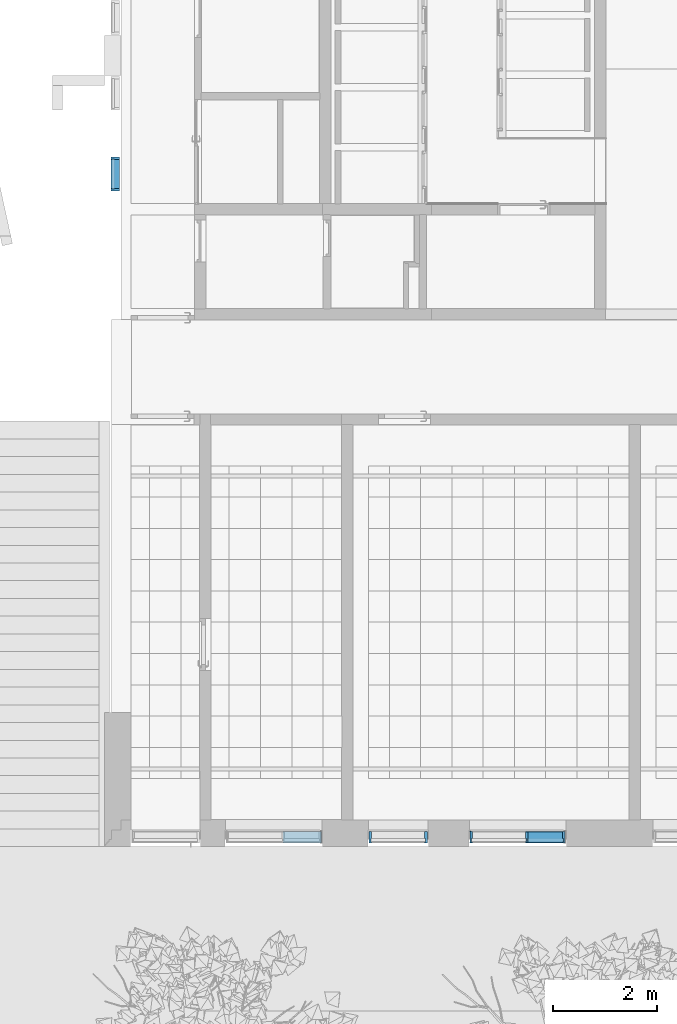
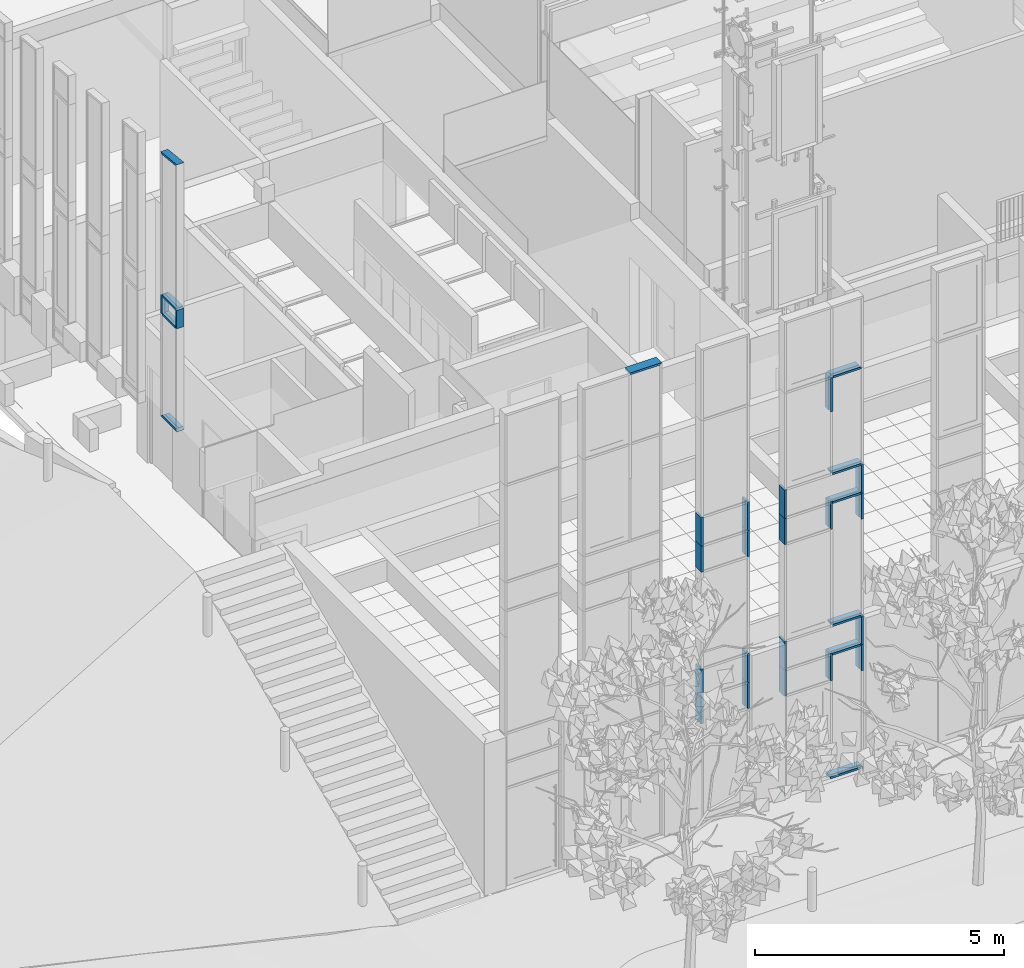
# One storey, part 30 of 246: 33 members, 4 elements without a shape of their own.
"""IFC2X3 building model written with IfcOpenShell, lengths in millimetres."""

from ifc_helpers import new_model, entity, si_unit, converted_unit, derived_unit, money_unit, direction, frame, origin_with_axes, place, context, subcontext, project, spatial, faceted_brep, source, transform, mapped, material, type_object, element, aggregate, save


model = new_model("IFC2X3")

# Units and contexts
model_context = context("Model", 3, precision=0.01, world=origin_with_axes(), true_north=direction((0.0, 1.0)))
body_context = subcontext(model_context, "Body", "Model", "MODEL_VIEW")
ifc_project = project(units=[si_unit("LENGTHUNIT", "METRE", prefix="MILLI"), si_unit("AREAUNIT", "SQUARE_METRE"), si_unit("VOLUMEUNIT", "CUBIC_METRE"), converted_unit("PLANEANGLEUNIT", "DEGREE", entity("IfcPlaneAngleMeasure", 0.0174532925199), si_unit("PLANEANGLEUNIT", "RADIAN"), dimensions=[0, 0, 0, 0, 0, 0, 0]), si_unit("SOLIDANGLEUNIT", "STERADIAN"), money_unit("EUR"), converted_unit("TIMEUNIT", "Year", entity("IfcTimeMeasure", 31556926.0), si_unit("TIMEUNIT", "SECOND"), dimensions=[0, 0, 1, 0, 0, 0, 0]), si_unit("MASSUNIT", "GRAM", prefix="KILO"), si_unit("THERMODYNAMICTEMPERATUREUNIT", "DEGREE_CELSIUS"), si_unit("LUMINOUSINTENSITYUNIT", "LUMEN"), si_unit("ENERGYUNIT", "JOULE", prefix="MEGA"), derived_unit("THERMALCONDUCTANCEUNIT", [(si_unit("POWERUNIT", "WATT"), 1), (si_unit("LENGTHUNIT", "METRE"), -1), (si_unit("THERMODYNAMICTEMPERATUREUNIT", "KELVIN"), -1)]), derived_unit("SPECIFICHEATCAPACITYUNIT", [(si_unit("ENERGYUNIT", "JOULE"), 1), (si_unit("MASSUNIT", "GRAM", prefix="KILO"), -1), (si_unit("THERMODYNAMICTEMPERATUREUNIT", "KELVIN"), -1)]), derived_unit("MASSDENSITYUNIT", [(si_unit("MASSUNIT", "GRAM", prefix="KILO"), 1), (si_unit("VOLUMEUNIT", "CUBIC_METRE"), -1)])], contexts=[model_context])

# Site, building, storey
site_placement = place(None, origin_with_axes())
site = spatial("IfcSite", under=ifc_project, at=site_placement, Name="L.Koidula tn 11b", CompositionType="ELEMENT")
building_placement = place(site_placement, origin_with_axes())
building = spatial("IfcBuilding", under=site, at=building_placement, Name="Rakvere Riigigümnaasium", CompositionType="ELEMENT")
storey_placement = place(building_placement, origin_with_axes())
storey = spatial("IfcBuildingStorey", under=building, at=storey_placement, Name="1.korrus 0,00", CompositionType="ELEMENT", Elevation=0.0)

# Curtain wall, members
curtain_wall_type = type_object("IfcCurtainWallType", Name="Curtain Wall Type", PredefinedType="NOTDEFINED")
curtain_wall_1_placement = place(storey_placement, frame((40619.71659, 5111.45334637, -1.61944636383e-05), z_axis=(0.0, 0.0, 1.0), x_axis=(1.0, 0.0, 0.0)))
curtain_wall_1 = element("IfcCurtainWall", 1, at=curtain_wall_1_placement, inside=storey, type_object=curtain_wall_type, Name="KLF-05-1D")
ifc_material = material(Name="Alumiiniumprofiil (RAL 7021)")
member_type_1 = type_object("IfcMemberType", Name="Boundary Frame 50 x 222", PredefinedType="MULLION")
shared_shape_1 = source(origin_with_axes(), body_context, "Body", "Brep", [
    faceted_brep([(37.0, -32.5, 705.000000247), (37.0, 32.5, 705.000000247), (50.0, 32.5, 705.000000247), (50.0, 53.0, 705.000000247), (0.0, 53.0, 705.000000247), (0.0, -169.0, 705.000000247), (50.0, -169.0, 705.000000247), (50.0, -32.5, 705.000000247), (37.0, -32.5, 0.0), (37.0, 32.5, 0.0), (50.0, 32.5, 0.0), (50.0, 53.0, 0.0), (0.0, 53.0, 0.0), (0.0, -169.0, 0.0), (50.0, -169.0, 0.0), (50.0, -32.5, 0.0)], [[[0, 1, 2, 3, 4, 5, 6, 7]], [[1, 0, 8, 9]], [[10, 2, 1, 9]], [[2, 10, 11, 3]], [[12, 4, 3, 11]], [[13, 5, 4, 12]], [[14, 6, 5, 13]], [[15, 7, 6, 14]], [[0, 7, 15, 8]], [[8, 15, 14, 13, 12, 11, 10, 9]]]),
])
member_1_placement = place(curtain_wall_1_placement, frame((-560.000157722, 0.0, 3745.0), z_axis=(0.0, 0.0, -1.0), x_axis=(1.0, 0.0, 0.0)))
member_1 = element("IfcMember", 2, at=member_1_placement, type_object=member_type_1, material=ifc_material, Name="KLF-05-2C-Profiilid", ObjectType="MULLION", context=body_context, shape_type="MappedRepresentation", body=[
    mapped(shared_shape_1, transform((0.0, 0.0, 0.0))),
])
member_2_placement = place(curtain_wall_1_placement, frame((-560.000157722, 0.0, 7465.0), z_axis=(0.0, 0.0, -1.0), x_axis=(1.0, 0.0, 0.0)))
member_2 = element("IfcMember", 3, at=member_2_placement, type_object=member_type_1, material=ifc_material, Name="KLF-05-9C-Profiilid", ObjectType="MULLION", context=body_context, shape_type="MappedRepresentation", body=[
    mapped(shared_shape_1, transform((0.0, 0.0, 0.0))),
])
member_3_placement = place(curtain_wall_1_placement, frame((560.000157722, 0.0, 6760.0), z_axis=(0.0, 0.0, 1.0), x_axis=(-1.0, 0.0, 0.0)))
member_3 = element("IfcMember", 4, at=member_3_placement, type_object=member_type_1, material=ifc_material, Name="KLF-05-3C-Profiilid", ObjectType="MULLION", context=body_context, shape_type="MappedRepresentation", body=[
    mapped(shared_shape_1, transform((0.0, 0.0, 0.0))),
])
member_4_placement = place(curtain_wall_1_placement, frame((560.000157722, 0.0, 3040.0), z_axis=(0.0, 0.0, 1.0), x_axis=(-1.0, 0.0, 0.0)))
member_4 = element("IfcMember", 5, at=member_4_placement, type_object=member_type_1, material=ifc_material, Name="KLF-05-0C-Profiilid", ObjectType="MULLION", context=body_context, shape_type="MappedRepresentation", body=[
    mapped(shared_shape_1, transform((0.0, 0.0, 0.0))),
])

curtain_wall_2_placement = place(storey_placement, frame((42948.5002114, 5111.45334637, -8.09717250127e-06), z_axis=(0.0, 0.0, 1.0), x_axis=(1.0, 0.0, 0.0)))
curtain_wall_2 = element("IfcCurtainWall", 6, at=curtain_wall_2_placement, inside=storey, type_object=curtain_wall_type, Name="KLF-05-2A")
member_5_placement = place(curtain_wall_2_placement, frame((876.000206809, 0.0, 6760.0), z_axis=(0.0, 0.0, 1.0), x_axis=(-1.0, 0.0, 0.0)))
member_5 = element("IfcMember", 7, at=member_5_placement, type_object=member_type_1, material=ifc_material, Name="KLF-05-7A-Profiilid", ObjectType="MULLION", context=body_context, shape_type="MappedRepresentation", body=[
    mapped(shared_shape_1, transform((0.0, 0.0, 0.0))),
])
member_6_placement = place(curtain_wall_2_placement, frame((876.000206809, 0.0, 3040.0), z_axis=(0.0, 0.0, 1.0), x_axis=(-1.0, 0.0, 0.0)))
member_6 = element("IfcMember", 8, at=member_6_placement, type_object=member_type_1, material=ifc_material, Name="KLF-05-4A-Profiilid", ObjectType="MULLION", context=body_context, shape_type="MappedRepresentation", body=[
    mapped(shared_shape_1, transform((0.0, 0.0, 0.0))),
])

# Member
shared_shape_2 = source(origin_with_axes(), body_context, "Body", "Brep", [
    faceted_brep([(37.0, -32.5, 640.0), (37.0, 32.5, 640.0), (50.0, 32.5, 640.0), (50.0, 53.0, 640.0), (0.0, 53.0, 640.0), (0.0, -169.0, 640.0), (50.0, -169.0, 640.0), (50.0, -32.5, 640.0), (37.0, -32.5, 0.0), (37.0, 32.5, 0.0), (50.0, 32.5, 0.0), (50.0, 53.0, 0.0), (0.0, 53.0, 0.0), (0.0, -169.0, 0.0), (50.0, -169.0, 0.0), (50.0, -32.5, 0.0)], [[[0, 1, 2, 3, 4, 5, 6, 7]], [[1, 0, 8, 9]], [[10, 2, 1, 9]], [[2, 10, 11, 3]], [[12, 4, 3, 11]], [[13, 5, 4, 12]], [[14, 6, 5, 13]], [[15, 7, 6, 14]], [[0, 7, 15, 8]], [[8, 15, 14, 13, 12, 11, 10, 9]]]),
])
member_7_placement = place(curtain_wall_1_placement, frame((-560.000157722, 0.0, 3040.0), z_axis=(0.0, 0.0, -1.0), x_axis=(1.0, 0.0, 0.0)))
member_7 = element("IfcMember", 9, at=member_7_placement, type_object=member_type_1, material=ifc_material, Name="KLF-05-3C-Profiilid", ObjectType="MULLION", context=body_context, shape_type="MappedRepresentation", body=[
    mapped(shared_shape_2, transform((0.0, 0.0, 0.0))),
])

member_8_placement = place(curtain_wall_1_placement, frame((-560.000157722, 0.0, 6760.0), z_axis=(0.0, 0.0, -1.0), x_axis=(1.0, 0.0, 0.0)))
member_8 = element("IfcMember", 10, at=member_8_placement, type_object=member_type_1, material=ifc_material, Name="KLF-05-0C-Profiilid", ObjectType="MULLION", context=body_context, shape_type="MappedRepresentation", body=[
    mapped(shared_shape_2, transform((0.0, 0.0, 0.0))),
])

member_9_placement = place(curtain_wall_1_placement, frame((560.000157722, 0.0, 6120.0), z_axis=(0.0, 0.0, 1.0), x_axis=(-1.0, 0.0, 0.0)))
member_9 = element("IfcMember", 11, at=member_9_placement, type_object=member_type_1, material=ifc_material, Name="KLF-05-2C-Profiilid", ObjectType="MULLION", context=body_context, shape_type="MappedRepresentation", body=[
    mapped(shared_shape_2, transform((0.0, 0.0, 0.0))),
])

member_10_placement = place(curtain_wall_1_placement, frame((560.000157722, 0.0, 2400.0), z_axis=(0.0, 0.0, 1.0), x_axis=(-1.0, 0.0, 0.0)))
member_10 = element("IfcMember", 12, at=member_10_placement, type_object=member_type_1, material=ifc_material, Name="KLF-05-9C-Profiilid", ObjectType="MULLION", context=body_context, shape_type="MappedRepresentation", body=[
    mapped(shared_shape_2, transform((0.0, 0.0, 0.0))),
])

aggregate(curtain_wall_1, [member_7, member_1, member_8, member_2, member_3, member_9, member_4, member_10])

member_11_placement = place(curtain_wall_2_placement, frame((876.000206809, 0.0, 6120.0), z_axis=(0.0, 0.0, 1.0), x_axis=(-1.0, 0.0, 0.0)))
member_11 = element("IfcMember", 13, at=member_11_placement, type_object=member_type_1, material=ifc_material, Name="KLF-05-6A-Profiilid", ObjectType="MULLION", context=body_context, shape_type="MappedRepresentation", body=[
    mapped(shared_shape_2, transform((0.0, 0.0, 0.0))),
])

member_12_placement = place(curtain_wall_2_placement, frame((876.000206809, 0.0, 2400.0), z_axis=(0.0, 0.0, 1.0), x_axis=(-1.0, 0.0, 0.0)))
member_12 = element("IfcMember", 14, at=member_12_placement, type_object=member_type_1, material=ifc_material, Name="KLF-05-3A-Profiilid", ObjectType="MULLION", context=body_context, shape_type="MappedRepresentation", body=[
    mapped(shared_shape_2, transform((0.0, 0.0, 0.0))),
])

shared_shape_3 = source(origin_with_axes(), body_context, "Body", "Brep", [
    faceted_brep([(-37.0, -32.5, 705.0), (-50.0, -32.5, 705.0), (-50.0, -169.0, 705.0), (0.0, -169.0, 705.0), (0.0, 53.0, 705.0), (-50.0, 53.0, 705.0), (-50.0, 32.5, 705.0), (-37.0, 32.5, 705.0), (-37.0, -32.5, 0.0), (-50.0, -32.5, 0.0), (-50.0, -169.0, 0.0), (0.0, -169.0, 0.0), (0.0, 53.0, 0.0), (-50.0, 53.0, 0.0), (-50.0, 32.5, 0.0), (-37.0, 32.5, 0.0)], [[[0, 1, 2, 3, 4, 5, 6, 7]], [[0, 8, 9, 1]], [[9, 10, 2, 1]], [[10, 11, 3, 2]], [[11, 12, 4, 3]], [[12, 13, 5, 4]], [[6, 5, 13, 14]], [[14, 15, 7, 6]], [[7, 15, 8, 0]], [[8, 15, 14, 13, 12, 11, 10, 9]]]),
])
member_13_placement = place(curtain_wall_2_placement, frame((-954.000087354, 0.0, 3040.0), z_axis=(0.0, 0.0, 1.0), x_axis=(-1.0, 0.0, 0.0)))
member_13 = element("IfcMember", 15, at=member_13_placement, type_object=member_type_1, material=ifc_material, Name="KLF-05-7A-Profiilid", ObjectType="MULLION", context=body_context, shape_type="MappedRepresentation", body=[
    mapped(shared_shape_3, transform((0.0, 0.0, 0.0))),
])

member_14_placement = place(curtain_wall_2_placement, frame((-954.000087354, 0.0, 6760.0), z_axis=(0.0, 0.0, 1.0), x_axis=(-1.0, 0.0, 0.0)))
member_14 = element("IfcMember", 16, at=member_14_placement, type_object=member_type_1, material=ifc_material, Name="KLF-05-4A-Profiilid", ObjectType="MULLION", context=body_context, shape_type="MappedRepresentation", body=[
    mapped(shared_shape_3, transform((0.0, 0.0, 0.0))),
])

shared_shape_4 = source(origin_with_axes(), body_context, "Body", "Brep", [
    faceted_brep([(-37.0, -32.5, 640.0), (-50.0, -32.5, 640.0), (-50.0, -169.0, 640.0), (0.0, -169.0, 640.0), (0.0, 53.0, 640.0), (-50.0, 53.0, 640.0), (-50.0, 32.5, 640.0), (-37.0, 32.5, 640.0), (-37.0, -32.5, 0.0), (-50.0, -32.5, 0.0), (-50.0, -169.0, 0.0), (0.0, -169.0, 0.0), (0.0, 53.0, 0.0), (-50.0, 53.0, 0.0), (-50.0, 32.5, 0.0), (-37.0, 32.5, 0.0)], [[[0, 1, 2, 3, 4, 5, 6, 7]], [[0, 8, 9, 1]], [[9, 10, 2, 1]], [[10, 11, 3, 2]], [[11, 12, 4, 3]], [[12, 13, 5, 4]], [[6, 5, 13, 14]], [[14, 15, 7, 6]], [[7, 15, 8, 0]], [[8, 15, 14, 13, 12, 11, 10, 9]]]),
])
member_15_placement = place(curtain_wall_2_placement, frame((-954.000087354, 0.0, 2400.0), z_axis=(0.0, 0.0, 1.0), x_axis=(-1.0, 0.0, 0.0)))
member_15 = element("IfcMember", 17, at=member_15_placement, type_object=member_type_1, material=ifc_material, Name="KLF-05-8A-Profiilid", ObjectType="MULLION", context=body_context, shape_type="MappedRepresentation", body=[
    mapped(shared_shape_4, transform((0.0, 0.0, 0.0))),
])

member_16_placement = place(curtain_wall_2_placement, frame((-954.000087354, 0.0, 6120.0), z_axis=(0.0, 0.0, 1.0), x_axis=(-1.0, 0.0, 0.0)))
member_16 = element("IfcMember", 18, at=member_16_placement, type_object=member_type_1, material=ifc_material, Name="KLF-05-5A-Profiilid", ObjectType="MULLION", context=body_context, shape_type="MappedRepresentation", body=[
    mapped(shared_shape_4, transform((0.0, 0.0, 0.0))),
])

# Curtain wall, members
curtain_wall_3_placement = place(storey_placement, frame((35156.0871538, 17885.4554584, 3720.0), z_axis=(0.0, 0.0, 1.0), x_axis=(1.0, 0.0, 0.0)))
curtain_wall_3 = element("IfcCurtainWall", 19, at=curtain_wall_3_placement, inside=storey, type_object=curtain_wall_type, Name="KLF-04-10")
member_type_2 = type_object("IfcMemberType", Name="Transom Frame 50 x 170", PredefinedType="MULLION")
shared_shape_5 = source(origin_with_axes(), body_context, "Body", "Brep", [
    faceted_brep([(-12.0, -26.0, 599.999891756), (-25.0, -26.0, 599.999891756), (-25.0, -124.0, 599.999887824), (25.0, -124.0, 599.999887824), (25.0, -26.0, 599.999891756), (12.0, -26.0, 599.999891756), (12.0, 26.0, 599.999893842), (25.0, 26.0, 599.999893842), (25.0, 46.0, 599.999894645), (-25.0, 46.0, 599.999894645), (-25.0, 26.0, 599.999893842), (-12.0, 26.0, 599.999893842), (-12.0, -26.0, 50.0000002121), (-25.0, -26.0, 50.0000002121), (-25.0, -124.0, 50.0000010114), (25.0, -124.0, 50.0000010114), (25.0, -26.0, 50.0000002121), (12.0, -26.0, 50.0000002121), (12.0, 26.0, 49.9999997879), (25.0, 26.0, 49.9999997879), (25.0, 46.0, 49.9999996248), (-25.0, 46.0, 49.9999996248), (-25.0, 26.0, 49.9999997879), (-12.0, 26.0, 49.9999997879)], [[[0, 1, 2, 3, 4, 5, 6, 7, 8, 9, 10, 11]], [[1, 0, 12, 13]], [[1, 13, 14, 2]], [[2, 14, 15, 3]], [[4, 3, 15, 16]], [[4, 16, 17, 5]], [[5, 17, 18, 6]], [[7, 6, 18, 19]], [[19, 20, 8, 7]], [[8, 20, 21, 9]], [[22, 10, 9, 21]], [[11, 10, 22, 23]], [[0, 11, 23, 12]], [[23, 22, 21, 20, 19, 18, 17, 16, 15, 14, 13, 12]]]),
])
member_17_placement = place(curtain_wall_3_placement, frame((0.0, 324.999939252, 2980.00007113), z_axis=(0.0, -1.0, 0.0), x_axis=(0.0, 0.0, 1.0)))
member_17 = element("IfcMember", 20, at=member_17_placement, type_object=member_type_2, material=ifc_material, Name="KLF-04-10-Profiilid", ObjectType="MULLION", context=body_context, shape_type="MappedRepresentation", body=[
    mapped(shared_shape_5, transform((0.0, 0.0, 0.0))),
])
member_18_placement = place(curtain_wall_3_placement, frame((0.0, 324.999939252, 2525.00007113), z_axis=(0.0, -1.0, 0.0), x_axis=(0.0, 0.0, 1.0)))
member_18 = element("IfcMember", 21, at=member_18_placement, type_object=member_type_2, material=ifc_material, Name="KLF-04-10-Profiilid", ObjectType="MULLION", context=body_context, shape_type="MappedRepresentation", body=[
    mapped(shared_shape_5, transform((0.0, 0.0, 0.0))),
])

# Member
member_type_3 = type_object("IfcMemberType", Name="50 x 208", PredefinedType="MULLION")
shared_shape_6 = source(origin_with_axes(), body_context, "Body", "Brep", [
    faceted_brep([(-12.0, -27.0, 730.000256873), (-25.0, -27.0, 730.000256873), (-25.0, -160.0, 730.000256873), (25.0, -160.0, 730.000256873), (25.0, -27.0, 730.000256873), (12.0, -27.0, 730.000256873), (12.0, 27.0, 730.000256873), (25.0, 27.0, 730.000256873), (25.0, 48.0, 730.000256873), (-25.0, 48.0, 730.000256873), (-25.0, 27.0, 730.000256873), (-12.0, 27.0, 730.000256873), (-12.0, -27.0, 25.0), (-25.0, -27.0, 25.0), (-25.0, -160.0, 25.0), (25.0, -160.0, 25.0), (25.0, -27.0, 25.0), (12.0, -27.0, 25.0), (12.0, 27.0, 25.0), (25.0, 27.0, 25.0), (25.0, 48.0, 25.0), (-25.0, 48.0, 25.0), (-25.0, 27.0, 25.0), (-12.0, 27.0, 25.0)], [[[0, 1, 2, 3, 4, 5, 6, 7, 8, 9, 10, 11]], [[1, 0, 12, 13]], [[1, 13, 14, 2]], [[2, 14, 15, 3]], [[4, 3, 15, 16]], [[4, 16, 17, 5]], [[5, 17, 18, 6]], [[7, 6, 18, 19]], [[19, 20, 8, 7]], [[8, 20, 21, 9]], [[22, 10, 9, 21]], [[11, 10, 22, 23]], [[0, 11, 23, 12]], [[23, 22, 21, 20, 19, 18, 17, 16, 15, 14, 13, 12]]]),
])
member_19_placement = place(curtain_wall_2_placement, frame((140.999912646, 0.0, 6760.0), z_axis=(1.0, 0.0, 0.0), x_axis=(0.0, 0.0, 1.0)))
member_19 = element("IfcMember", 22, at=member_19_placement, type_object=member_type_3, material=ifc_material, Name="KLF-33", ObjectType="MULLION", context=body_context, shape_type="MappedRepresentation", body=[
    mapped(shared_shape_6, transform((0.0, 0.0, 0.0))),
])

member_20_placement = place(curtain_wall_2_placement, frame((140.999912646, 0.0, 3745.0), z_axis=(1.0, 0.0, 0.0), x_axis=(0.0, 0.0, 1.0)))
member_20 = element("IfcMember", 23, at=member_20_placement, type_object=member_type_3, material=ifc_material, Name="KLF-08", ObjectType="MULLION", context=body_context, shape_type="MappedRepresentation", body=[
    mapped(shared_shape_6, transform((0.0, 0.0, 0.0))),
])

member_21_placement = place(curtain_wall_2_placement, frame((140.999912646, 0.0, 7465.0), z_axis=(1.0, 0.0, 0.0), x_axis=(0.0, 0.0, 1.0)))
member_21 = element("IfcMember", 24, at=member_21_placement, type_object=member_type_3, material=ifc_material, Name="KLF-57", ObjectType="MULLION", context=body_context, shape_type="MappedRepresentation", body=[
    mapped(shared_shape_6, transform((0.0, 0.0, 0.0))),
])

member_22_placement = place(curtain_wall_2_placement, frame((140.999912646, 0.0, 3040.0), z_axis=(1.0, 0.0, 0.0), x_axis=(0.0, 0.0, 1.0)))
member_22 = element("IfcMember", 25, at=member_22_placement, type_object=member_type_3, material=ifc_material, Name="KLF-09", ObjectType="MULLION", context=body_context, shape_type="MappedRepresentation", body=[
    mapped(shared_shape_6, transform((0.0, 0.0, 0.0))),
])

shared_shape_7 = source(origin_with_axes(), body_context, "Body", "Brep", [
    faceted_brep([(-12.0, -27.0, 665.0), (-25.0, -27.0, 665.0), (-25.0, -160.0, 665.0), (25.0, -160.0, 665.0), (25.0, -27.0, 665.0), (12.0, -27.0, 665.0), (12.0, 27.0, 665.0), (25.0, 27.0, 665.0), (25.0, 48.0, 665.0), (-25.0, 48.0, 665.0), (-25.0, 27.0, 665.0), (-12.0, 27.0, 665.0), (-12.0, -27.0, 0.0), (-25.0, -27.0, 0.0), (-25.0, -160.0, 0.0), (25.0, -160.0, 0.0), (25.0, -27.0, 0.0), (12.0, -27.0, 0.0), (12.0, 27.0, 0.0), (25.0, 27.0, 0.0), (25.0, 48.0, 0.0), (-25.0, 48.0, 0.0), (-25.0, 27.0, 0.0), (-12.0, 27.0, 0.0)], [[[0, 1, 2, 3, 4, 5, 6, 7, 8, 9, 10, 11]], [[1, 0, 12, 13]], [[1, 13, 14, 2]], [[3, 2, 14, 15]], [[4, 3, 15, 16]], [[4, 16, 17, 5]], [[5, 17, 18, 6]], [[7, 6, 18, 19]], [[19, 20, 8, 7]], [[9, 8, 20, 21]], [[22, 10, 9, 21]], [[11, 10, 22, 23]], [[0, 11, 23, 12]], [[23, 22, 21, 20, 19, 18, 17, 16, 15, 14, 13, 12]]]),
])
member_23_placement = place(curtain_wall_2_placement, frame((140.999912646, 0.0, 2400.0), z_axis=(0.0, 0.0, 1.0), x_axis=(-1.0, 0.0, 0.0)))
member_23 = element("IfcMember", 26, at=member_23_placement, type_object=member_type_3, material=ifc_material, Name="KLF-41", ObjectType="MULLION", context=body_context, shape_type="MappedRepresentation", body=[
    mapped(shared_shape_7, transform((0.0, 0.0, 0.0))),
])

member_24_placement = place(curtain_wall_2_placement, frame((140.999912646, 0.0, 6120.0), z_axis=(0.0, 0.0, 1.0), x_axis=(-1.0, 0.0, 0.0)))
member_24 = element("IfcMember", 27, at=member_24_placement, type_object=member_type_3, material=ifc_material, Name="KLF-96", ObjectType="MULLION", context=body_context, shape_type="MappedRepresentation", body=[
    mapped(shared_shape_7, transform((0.0, 0.0, 0.0))),
])

member_type_4 = type_object("IfcMemberType", Name="Mullion Frame 50 x 222", PredefinedType="MULLION")
shared_shape_8 = source(origin_with_axes(), body_context, "Body", "Brep", [
    faceted_brep([(-12.0, -32.5, 840.0), (-25.0, -32.5, 840.0), (-25.0, -169.0, 840.0), (25.0, -169.0, 840.0), (25.0, -32.5, 840.0), (12.0, -32.5, 840.0), (12.0, 32.5, 840.0), (25.0, 32.5, 840.0), (25.0, 53.0, 840.0), (-25.0, 53.0, 840.0), (-25.0, 32.5, 840.0), (-12.0, 32.5, 840.0), (-12.0, -32.5, 0.0), (-25.0, -32.5, 0.0), (-25.0, -169.0, 0.0), (25.0, -169.0, 0.0), (25.0, -32.5, 0.0), (12.0, -32.5, 0.0), (12.0, 32.5, 0.0), (25.0, 32.5, 0.0), (25.0, 53.0, 0.0), (-25.0, 53.0, 0.0), (-25.0, 32.5, 0.0), (-12.0, 32.5, 0.0)], [[[0, 1, 2, 3, 4, 5, 6, 7, 8, 9, 10, 11]], [[1, 0, 12, 13]], [[1, 13, 14, 2]], [[3, 2, 14, 15]], [[4, 3, 15, 16]], [[4, 16, 17, 5]], [[5, 17, 18, 6]], [[7, 6, 18, 19]], [[19, 20, 8, 7]], [[9, 8, 20, 21]], [[22, 10, 9, 21]], [[11, 10, 22, 23]], [[0, 11, 23, 12]], [[23, 22, 21, 20, 19, 18, 17, 16, 15, 14, 13, 12]]]),
])
member_25_placement = place(curtain_wall_2_placement, frame((140.999912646, 0.0, 9000.0), z_axis=(0.0, 0.0, 1.0), x_axis=(-1.0, 0.0, 0.0)))
member_25 = element("IfcMember", 28, at=member_25_placement, type_object=member_type_4, material=ifc_material, Name="KLF-05-3A-Profiilid", ObjectType="MULLION", context=body_context, shape_type="MappedRepresentation", body=[
    mapped(shared_shape_8, transform((0.0, 0.0, 0.0))),
])

member_type_5 = type_object("IfcMemberType", Name="Boundary Frame 50 x 170", PredefinedType="MULLION")
shared_shape_9 = source(origin_with_axes(), body_context, "Body", "Brep", [
    faceted_brep([(37.0, -26.0, 613.000008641), (37.0, 26.0, 613.000008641), (50.0, 26.0, 600.000008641), (50.0, 46.0, 600.000008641), (0.0, 46.0, 650.000008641), (0.0, -124.0, 650.000008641), (50.0, -124.0, 600.000008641), (50.0, -26.0, 600.000008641), (37.0, -26.0, 37.00000143), (37.0, 26.0, 37.00000143), (50.0, 26.0, 50.0000019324), (50.0, 46.0, 50.0000019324), (0.0, 46.0, 0.0), (0.0, -124.0, 0.0), (50.0, -124.0, 50.0000019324), (50.0, -26.0, 50.0000019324)], [[[0, 1, 2, 3, 4, 5, 6, 7]], [[1, 0, 8, 9]], [[10, 2, 1, 9]], [[2, 10, 11, 3]], [[4, 3, 11, 12]], [[5, 4, 12, 13]], [[6, 5, 13, 14]], [[15, 7, 6, 14]], [[0, 7, 15, 8]], [[8, 15, 14, 13, 12, 11, 10, 9]]]),
])
member_26_placement = place(curtain_wall_3_placement, frame((0.0, 325.000036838, 0.0), z_axis=(0.0, -1.0, 0.0), x_axis=(0.0, 0.0, 1.0)))
member_26 = element("IfcMember", 29, at=member_26_placement, type_object=member_type_5, material=ifc_material, Name="KLF-04-62-Profiilid", ObjectType="MULLION", context=body_context, shape_type="MappedRepresentation", body=[
    mapped(shared_shape_9, transform((0.0, 0.0, 0.0))),
])

shared_shape_10 = source(origin_with_axes(), body_context, "Body", "Brep", [
    faceted_brep([(37.0, -26.0, 620.265353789), (37.0, 26.0, 620.265353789), (50.0, 26.0, 608.560101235), (50.0, 46.0, 608.560101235), (0.0, 46.0, 653.580303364), (0.0, -124.0, 653.580303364), (50.0, -124.0, 608.560101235), (50.0, -26.0, 608.560101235), (37.0, -26.0, 41.0926634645), (37.0, 26.0, 41.0926634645), (50.0, 26.0, 55.5306263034), (50.0, 46.0, 55.5306263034), (0.0, 46.0, 0.0), (0.0, -124.0, 0.0), (50.0, -124.0, 55.5306263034), (50.0, -26.0, 55.5306263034)], [[[0, 1, 2, 3, 4, 5, 6, 7]], [[1, 0, 8, 9]], [[10, 2, 1, 9]], [[2, 10, 11, 3]], [[4, 3, 11, 12]], [[5, 4, 12, 13]], [[6, 5, 13, 14]], [[15, 7, 6, 14]], [[0, 7, 15, 8]], [[8, 15, 14, 13, 12, 11, 10, 9]]]),
])
member_27_placement = place(curtain_wall_3_placement, frame((0.0, -324.999953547, 6553.39181272), z_axis=(0.0, 0.994521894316, -0.104528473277), x_axis=(0.0, -0.104528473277, -0.994521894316)))
member_27 = element("IfcMember", 30, at=member_27_placement, type_object=member_type_5, material=ifc_material, Name="KLF-04-66-Profiilid", ObjectType="MULLION", context=body_context, shape_type="MappedRepresentation", body=[
    mapped(shared_shape_10, transform((0.0, 0.0, 0.0))),
])

shared_shape_11 = source(origin_with_axes(), body_context, "Body", "Brep", [
    faceted_brep([(37.0, -27.0, 730.000256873), (37.0, 27.0, 730.000256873), (50.0, 27.0, 730.000256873), (50.0, 48.0, 730.000256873), (0.0, 48.0, 730.000256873), (0.0, -160.0, 730.000256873), (50.0, -160.0, 730.000256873), (50.0, -27.0, 730.000256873), (37.0, -27.0, -25.0), (37.0, 27.0, -25.0), (50.0, 27.0, -25.0), (50.0, 48.0, -25.0), (0.0, 48.0, -25.0), (0.0, -160.0, -25.0), (50.0, -160.0, -25.0), (50.0, -27.0, -25.0)], [[[0, 1, 2, 3, 4, 5, 6, 7]], [[1, 0, 8, 9]], [[10, 2, 1, 9]], [[2, 10, 11, 3]], [[12, 4, 3, 11]], [[13, 5, 4, 12]], [[14, 6, 5, 13]], [[15, 7, 6, 14]], [[0, 7, 15, 8]], [[8, 15, 14, 13, 12, 11, 10, 9]]]),
])
member_28_placement = place(curtain_wall_2_placement, frame((140.999912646, 0.0, 0.0), z_axis=(1.0, 0.0, 0.0), x_axis=(0.0, 0.0, 1.0)))
member_28 = element("IfcMember", 31, at=member_28_placement, type_object=member_type_3, material=ifc_material, Name="KLF-55", ObjectType="MULLION", context=body_context, shape_type="MappedRepresentation", body=[
    mapped(shared_shape_11, transform((0.0, 0.0, 0.0))),
])

shared_shape_12 = source(origin_with_axes(), body_context, "Body", "Brep", [
    faceted_brep([(0.0, 53.0, 0.0), (0.0, 53.0, 19.999885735), (19.999885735, 53.0, 19.999885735), (0.0, -169.0, 0.0), (0.0, -169.0, 19.999885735), (19.999885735, -169.0, 19.999885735)], [[[0, 1, 2]], [[3, 4, 1, 0]], [[2, 1, 4, 5]], [[2, 5, 3, 0]], [[5, 4, 3]]]),
])
member_29_placement = place(curtain_wall_2_placement, frame((-954.000087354, 0.0, 0.0), z_axis=(1.0, 0.0, 0.0), x_axis=(0.0, 0.0, 1.0)))
member_29 = element("IfcMember", 32, at=member_29_placement, type_object=member_type_1, material=ifc_material, Name="KLF-05-0A-Profiilid", ObjectType="MULLION", context=body_context, shape_type="MappedRepresentation", body=[
    mapped(shared_shape_12, transform((0.0, 0.0, 0.0))),
])

member_type_6 = type_object("IfcMemberType", Name="Transom Frame 50 x 222", PredefinedType="MULLION")
shared_shape_13 = source(origin_with_axes(), body_context, "Body", "Brep", [
    faceted_brep([(-12.0, -32.5, 685.000257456), (-25.0, -32.5, 685.000257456), (-25.0, -169.0, 685.000249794), (25.0, -169.0, 685.000249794), (25.0, -32.5, 685.000257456), (12.0, -32.5, 685.000257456), (12.0, 32.5, 685.000261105), (25.0, 32.5, 685.000261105), (25.0, 53.0, 685.000262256), (-25.0, 53.0, 685.000262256), (-25.0, 32.5, 685.000261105), (-12.0, 32.5, 685.000261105), (-12.0, -32.5, 25.0), (-25.0, -32.5, 25.0), (-25.0, -169.0, 25.0), (25.0, -169.0, 25.0), (25.0, -32.5, 25.0), (12.0, -32.5, 25.0), (12.0, 32.5, 25.0), (25.0, 32.5, 25.0), (25.0, 53.0, 25.0), (-25.0, 53.0, 25.0), (-25.0, 32.5, 25.0), (-12.0, 32.5, 25.0)], [[[0, 1, 2, 3, 4, 5, 6, 7, 8, 9, 10, 11]], [[1, 0, 12, 13]], [[1, 13, 14, 2]], [[2, 14, 15, 3]], [[4, 3, 15, 16]], [[4, 16, 17, 5]], [[5, 17, 18, 6]], [[7, 6, 18, 19]], [[19, 20, 8, 7]], [[8, 20, 21, 9]], [[22, 10, 9, 21]], [[11, 10, 22, 23]], [[0, 11, 23, 12]], [[23, 22, 21, 20, 19, 18, 17, 16, 15, 14, 13, 12]]]),
])
member_30_placement = place(curtain_wall_2_placement, frame((140.999912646, 0.0, 9840.0), z_axis=(1.0, 0.0, 0.0), x_axis=(0.0, 0.0, 1.0)))
member_30 = element("IfcMember", 33, at=member_30_placement, type_object=member_type_6, material=ifc_material, Name="KLF-05-0A-Profiilid", ObjectType="MULLION", context=body_context, shape_type="MappedRepresentation", body=[
    mapped(shared_shape_13, transform((0.0, 0.0, 0.0))),
])

aggregate(curtain_wall_2, [member_23, member_19, member_28, member_20, member_21, member_24, member_22, member_25, member_15, member_13, member_16, member_14, member_29, member_11, member_5, member_30, member_6, member_12])

# Curtain wall, member
curtain_wall_4_placement = place(storey_placement, frame((38273.9956035, 5111.45334637, -8.09717250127e-06), z_axis=(0.0, 0.0, 1.0), x_axis=(1.0, 0.0, 0.0)))
curtain_wall_4 = element("IfcCurtainWall", 34, at=curtain_wall_4_placement, inside=storey, type_object=curtain_wall_type, Name="KLF-05-2A")
shared_shape_14 = source(origin_with_axes(), body_context, "Body", "Brep", [
    faceted_brep([(37.0, -32.5, 735.000357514), (37.0, 32.5, 735.000357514), (50.0, 32.5, 735.000357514), (50.0, 53.0, 735.000357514), (0.0, 53.0, 735.000357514), (0.0, -169.0, 735.000357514), (50.0, -169.0, 735.000357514), (50.0, -32.5, 735.000357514), (37.0, -32.5, 37.0000020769), (37.0, 32.5, 37.0000020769), (50.0, 32.5, 50.0000028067), (50.0, 53.0, 50.0000028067), (0.0, 53.0, 0.0), (0.0, -169.0, 0.0), (50.0, -169.0, 50.0000028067), (50.0, -32.5, 50.0000028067)], [[[0, 1, 2, 3, 4, 5, 6, 7]], [[1, 0, 8, 9]], [[10, 2, 1, 9]], [[2, 10, 11, 3]], [[4, 3, 11, 12]], [[5, 4, 12, 13]], [[6, 5, 13, 14]], [[15, 7, 6, 14]], [[0, 7, 15, 8]], [[8, 15, 14, 13, 12, 11, 10, 9]]]),
])
member_31_placement = place(curtain_wall_4_placement, frame((876.00027016, 0.0, 11590.0000411), z_axis=(-1.0, 0.0, 0.0), x_axis=(0.0, 0.0, -1.0)))
member_31 = element("IfcMember", 35, at=member_31_placement, type_object=member_type_1, material=ifc_material, Name="KLF-05-0A-Profiilid", ObjectType="MULLION", context=body_context, shape_type="MappedRepresentation", body=[
    mapped(shared_shape_14, transform((0.0, 0.0, 0.0))),
])
aggregate(curtain_wall_4, [member_31])

# Member
shared_shape_15 = source(origin_with_axes(), body_context, "Body", "Brep", [
    faceted_brep([(37.0, -26.0, 455.000000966), (37.0, 26.0, 455.000000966), (50.0, 26.0, 455.000000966), (50.0, 46.0, 455.000000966), (0.0, 46.0, 455.000000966), (0.0, -124.0, 455.000000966), (50.0, -124.0, 455.000000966), (50.0, -26.0, 455.000000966), (37.0, -26.0, -2.03919492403e-07), (37.0, 26.0, -2.03919492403e-07), (50.0, 26.0, -2.03919492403e-07), (50.0, 46.0, -2.03919492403e-07), (0.0, 46.0, -2.03919492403e-07), (0.0, -124.0, -2.03919492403e-07), (50.0, -124.0, -2.03919492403e-07), (50.0, -26.0, -2.03919492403e-07)], [[[0, 1, 2, 3, 4, 5, 6, 7]], [[1, 0, 8, 9]], [[10, 2, 1, 9]], [[2, 10, 11, 3]], [[12, 4, 3, 11]], [[13, 5, 4, 12]], [[14, 6, 5, 13]], [[15, 7, 6, 14]], [[0, 7, 15, 8]], [[8, 15, 14, 13, 12, 11, 10, 9]]]),
])
member_32_placement = place(curtain_wall_3_placement, frame((0.0, 324.999939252, 2980.00007113), z_axis=(0.0, 0.0, -1.0), x_axis=(0.0, -1.0, 0.0)))
member_32 = element("IfcMember", 36, at=member_32_placement, type_object=member_type_5, material=ifc_material, Name="KLF-04-68-Profiilid", ObjectType="MULLION", context=body_context, shape_type="MappedRepresentation", body=[
    mapped(shared_shape_15, transform((0.0, 0.0, 0.0))),
])

member_33_placement = place(curtain_wall_3_placement, frame((0.0, -324.999971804, 2525.00007113), z_axis=(0.0, 4.01241452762e-08, 1.0), x_axis=(0.0, 1.0, -4.01241452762e-08)))
member_33 = element("IfcMember", 37, at=member_33_placement, type_object=member_type_5, material=ifc_material, Name="KLF-04-64-Profiilid", ObjectType="MULLION", context=body_context, shape_type="MappedRepresentation", body=[
    mapped(shared_shape_15, transform((0.0, 0.0, 0.0))),
])

aggregate(curtain_wall_3, [member_17, member_18, member_32, member_26, member_33, member_27])

save(model, "model.ifc")
